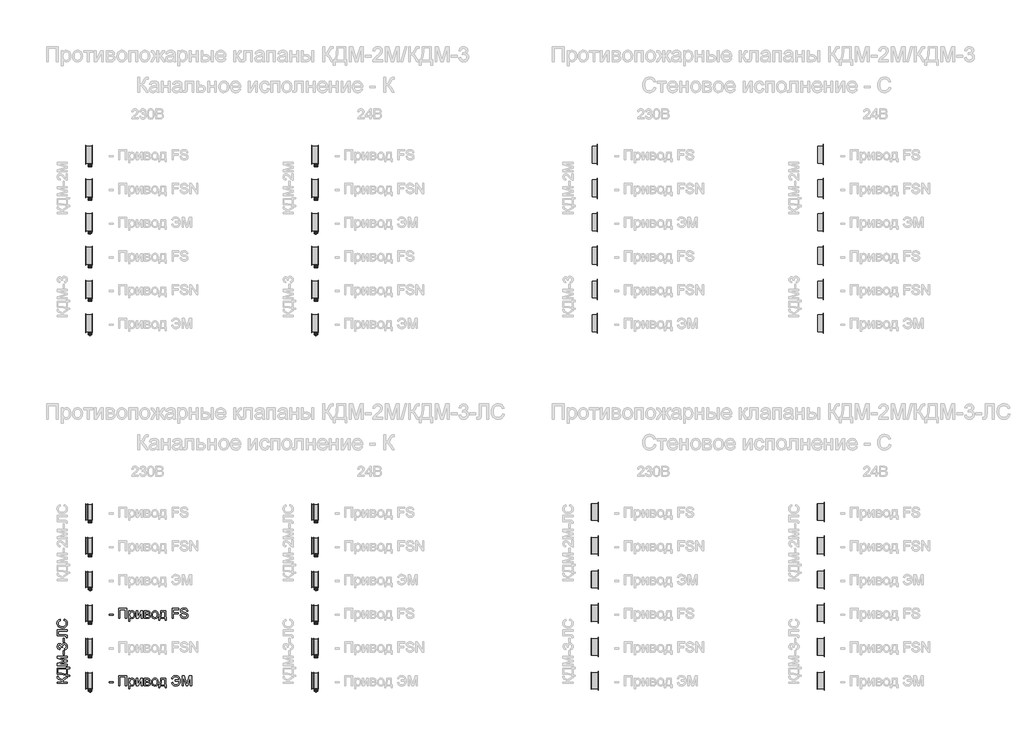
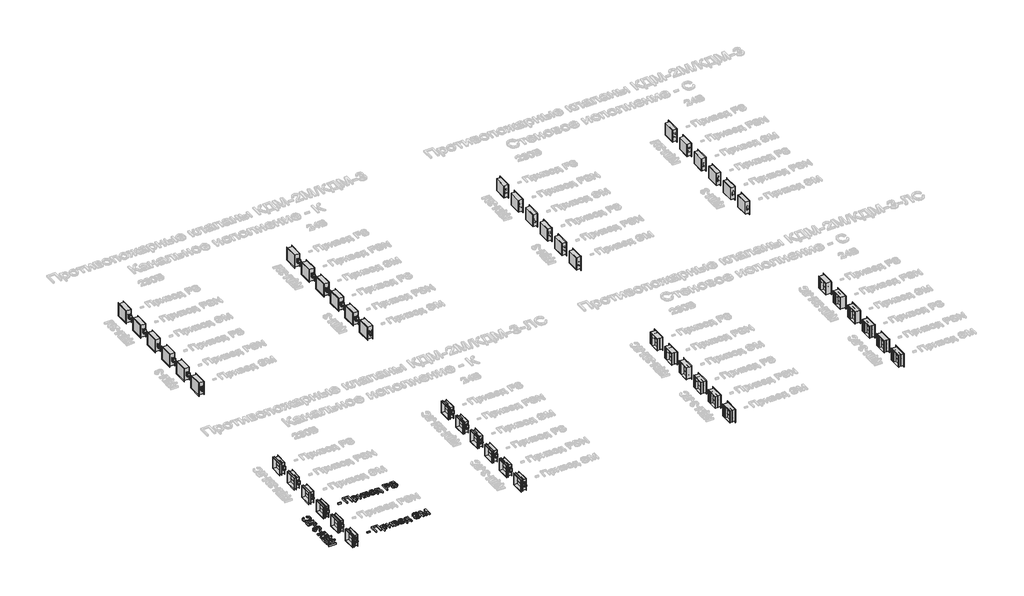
# One storey, part 1 of 23: 48 dampers, 3 proxies.
"""IFC4 building model written with IfcOpenShell, lengths in millimetres."""

from ifc_helpers import new_model, si_unit, origin, origin_with_axes, place, context, project, spatial, polyline, outline, extrude, transform, mapped, element, save
from components import damper_92731bf6, damper_259d30a5, damper_035a5197, damper_7b435ec8, damper_2479240d, damper_fe1c0cd6, damper_6541aed5, damper_64d2bc8e, damper_c32975f0, damper_f3751903, damper_c23bb0b5, damper_e07f9e79, damper_27d5a0eb, damper_a9b1c7ca, damper_ea2bbee0, damper_bef475e9

model = new_model("IFC4")

# Units and contexts
model_context = context("Model", 3, world=origin())
ifc_project = project(units=[si_unit("LENGTHUNIT", "METRE", prefix="MILLI")], contexts=[model_context])

# Site, building, storey
site = spatial("IfcSite", under=ifc_project)
building = spatial("IfcBuilding", under=site)
storey = spatial("IfcBuildingStorey", under=building, Name="Этаж 01", Elevation=0.0)

# Proxies
placement = place(None, origin())
element("IfcBuildingElementProxy", 1, Name="300 мм Arial", ObjectType="300 мм Arial", at=placement, inside=storey, context=model_context, shape_type="SweptSolid", body=[
    extrude(outline(polyline([(2804.7738082, -18034.3206311), (2804.7738082, -17996.6495148), (2922.4960467, -17996.6495148), (2922.4960467, -18034.3206311), (2804.7738082, -18034.3206311)])), origin_with_axes(), (0.0, 0.0, 1.0), 50.0),
    extrude(outline(polyline([(3087.3071805, -17822.4206019), (3322.7516574, -17822.4206019), (3322.7516574, -18123.7895324), (3285.0805411, -18123.7895324), (3285.0805411, -17860.0917182), (3124.9782968, -17860.0917182), (3124.9782968, -18123.7895324), (3087.3071805, -18123.7895324), (3087.3071805, -17822.4206019)])), origin_with_axes(), (0.0, 0.0, 1.0), 50.0),
    extrude(outline(polyline([(3383.9672214, -18208.5495441), (3383.9672214, -17902.4717241), (3421.6383378, -17902.4717241), (3421.6383378, -17939.4070764), (3433.9255964, -17921.1877206), (3447.684383, -17908.173895), (3463.724038, -17900.3655996), (3482.8539017, -17897.7628345), (3508.3297299, -17901.4048663), (3530.6049847, -17912.3309615), (3548.7415671, -17929.8789327), (3561.8013779, -17953.3865922), (3569.6924467, -17981.1432887), (3572.322803, -18011.438371), (3569.3521559, -18043.6556368), (3560.4402145, -18072.469994), (3545.8720875, -18096.4191119), (3525.9328834, -18114.0406595), (3502.7103324, -18124.8839813), (3478.292165, -18128.4984219), (3460.9741201, -18126.0795978), (3445.5138792, -18118.8231254), (3432.2793245, -18107.869439), (3421.6383378, -18094.3589728), (3421.6383378, -18208.5495441), (3383.9672214, -18208.5495441)]), holes=[polyline([(3421.6383378, -18014.8964618), (3425.7126308, -18048.668029), (3437.9355101, -18072.286053), (3455.970925, -18086.1919925), (3477.4828246, -18090.8273056), (3499.3442122, -18086.0264456), (3517.8394795, -18071.6238655), (3530.4486349, -18047.1413187), (3534.6516867, -18012.1005586), (3530.5498024, -17978.5129325), (3518.2441497, -17954.5638146), (3500.236326, -17940.2164168), (3479.027929, -17935.4339508), (3457.7367585, -17940.5199194), (3439.0391561, -17955.7778252), (3425.9885423, -17980.7294215), (3421.6383378, -18014.8964618)])]), origin_with_axes(), (0.0, 0.0, 1.0), 50.0),
    extrude(outline(polyline([(3614.7028088, -17902.4717241), (3652.3739251, -17902.4717241), (3652.3739251, -18071.2559835), (3744.9330351, -17902.4717241), (3793.6406113, -17902.4717241), (3793.6406113, -18123.7895324), (3755.969495, -18123.7895324), (3755.969495, -17956.0353426), (3663.9989962, -18123.7895324), (3614.7028088, -18123.7895324), (3614.7028088, -17902.4717241)])), origin_with_axes(), (0.0, 0.0, 1.0), 50.0),
    extrude(outline(polyline([(3850.1472857, -17902.4717241), (3933.1414638, -17902.4717241), (3959.8221055, -17903.7317199), (3978.6484666, -17907.5117074), (3992.4992238, -17914.6486181), (4004.2530535, -17925.9793836), (4012.2820781, -17940.7406486), (4014.9584196, -17958.1690581), (4013.3397388, -17972.2129533), (4008.4836965, -17984.325468), (4000.3718985, -17994.5617845), (3988.9859507, -18002.9770852), (4002.9286783, -18010.8037746), (4014.296232, -18023.3945359), (4021.856207, -18039.7560876), (4024.3761986, -18058.8951484), (4017.993446, -18087.6083381), (4002.8183137, -18107.8234538), (3978.7956194, -18119.7980127), (3945.8701809, -18123.7895324), (3850.1472857, -18123.7895324), (3850.1472857, -17902.4717241)]), holes=[polyline([(3887.818402, -18086.1184161), (3934.0243806, -18086.1184161), (3959.2059032, -18084.4169618), (3975.0064349, -18079.3125992), (3983.4861149, -18070.0327758), (3986.7050823, -18055.8049397), (3985.0955986, -18046.3779635), (3980.2671474, -18037.6683573), (3972.8543252, -18030.8533433), (3963.4917284, -18027.110144), (3930.3455607, -18024.9028521), (3887.818402, -18024.9028521), (3887.818402, -18086.1184161)]), polyline([(3887.818402, -17987.2317358), (3925.04806, -17987.2317358), (3955.7662065, -17985.3187494), (3970.7022156, -17977.6668039), (3975.6410313, -17971.3392336), (3977.2873033, -17963.8344409), (3974.3994296, -17952.5956459), (3965.7358086, -17945.3667647), (3950.0824297, -17941.4488215), (3926.2252823, -17940.1428404), (3887.818402, -17940.1428404), (3887.818402, -17987.2317358)])]), origin_with_axes(), (0.0, 0.0, 1.0), 50.0),
    extrude(outline(polyline([(4062.047315, -18013.1306282), (4064.0844615, -17984.4680223), (4070.1959011, -17959.7693448), (4080.3816339, -17939.0345959), (4094.6416597, -17922.2637754), (4108.9982546, -17911.5446138), (4124.8447715, -17903.8880698), (4142.1812106, -17899.2941433), (4161.0075717, -17897.7628345), (4181.7906051, -17899.6275364), (4200.5824773, -17905.221642), (4217.3831882, -17914.5451513), (4232.1927377, -17927.5980643), (4244.2799605, -17943.9389227), (4252.9136911, -17963.126268), (4258.0939294, -17985.1601003), (4259.8206756, -18010.0404195), (4256.767255, -18048.0978119), (4247.6069933, -18077.068519), (4232.606605, -18098.7643596), (4212.0328044, -18114.9971527), (4187.5962429, -18125.1231046), (4161.0075717, -18128.4984219), (4139.9210355, -18126.6406178), (4120.9544194, -18121.0672056), (4104.1077233, -18111.7781852), (4089.3809472, -18098.7735567), (4077.4224831, -18082.2740492), (4068.880723, -18062.500392), (4063.755667, -18039.452585), (4062.047315, -18013.1306282)]), holes=[polyline([(4099.7184313, -18013.0570518), (4104.0778329, -18047.1505157), (4117.1560378, -18071.4399245), (4136.8377246, -18085.9804603), (4161.0075717, -18090.8273056), (4185.0670541, -18085.9528692), (4204.7119527, -18071.3295599), (4217.7901576, -18046.7182544), (4222.1495593, -18011.8798294), (4217.7625665, -17978.7796469), (4204.6015881, -17954.821332), (4184.9290984, -17940.2807961), (4161.0075717, -17935.4339508), (4136.8377246, -17940.262402), (4117.1560378, -17954.7477556), (4104.0778329, -17978.981982), (4099.7184313, -18013.0570518)])]), origin_with_axes(), (0.0, 0.0, 1.0), 50.0),
    extrude(outline(polyline([(4335.1629082, -17902.4717241), (4476.4295943, -17902.4717241), (4476.4295943, -18086.1184161), (4504.6829316, -18086.1184161), (4504.6829316, -18185.0050964), (4467.0118152, -18185.0050964), (4467.0118152, -18123.7895324), (4311.6184605, -18123.7895324), (4311.6184605, -18185.0050964), (4273.9473442, -18185.0050964), (4273.9473442, -18086.1184161), (4297.4917919, -18086.1184161), (4314.6075017, -18055.1887373), (4326.5912577, -18014.2710624), (4333.4430598, -17963.3653913), (4335.1629082, -17902.4717241)]), holes=[polyline([(4368.1251349, -17940.1428404), (4365.0349262, -17986.2660455), (4359.2959671, -18025.9697099), (4350.9082576, -18059.2538334), (4339.8717977, -18086.1184161), (4438.758478, -18086.1184161), (4438.758478, -17940.1428404), (4368.1251349, -17940.1428404)])]), origin_with_axes(), (0.0, 0.0, 1.0), 50.0),
    extrude(outline(polyline([(4669.4940654, -18123.7895324), (4669.4940654, -17822.4206019), (4871.9763155, -17822.4206019), (4871.9763155, -17860.0917182), (4707.1651817, -17860.0917182), (4707.1651817, -17949.5606195), (4848.4318678, -17949.5606195), (4848.4318678, -17987.2317358), (4707.1651817, -17987.2317358), (4707.1651817, -18123.7895324), (4669.4940654, -18123.7895324)])), origin_with_axes(), (0.0, 0.0, 1.0), 50.0),
    extrude(outline(polyline([(4909.6474318, -18020.1939625), (4947.3185481, -18020.1939625), (4951.6411616, -18041.0988569), (4959.458654, -18057.901867), (4971.6539421, -18071.2375894), (4989.1099428, -18081.7406203), (5010.4470985, -18088.5556343), (5034.2858518, -18090.8273056), (5055.2735196, -18089.1074573), (5073.6492253, -18083.9479123), (5088.539249, -18075.780932), (5099.0698712, -18065.0387777), (5105.3330621, -18052.7055339), (5107.4207924, -18039.7652847), (5105.857294, -18027.1561293), (5101.1667985, -18016.2576252), (5091.6386549, -18006.9594078), (5075.5622117, -17999.1511124), (5020.7110062, -17984.7669264), (4984.7045559, -17975.2479798), (4961.665946, -17966.1888856), (4942.9131613, -17953.5153509), (4929.6234242, -17938.1562776), (4921.7047642, -17920.4427595), (4919.0652109, -17900.7058905), (4922.3301636, -17878.6421678), (4932.1250217, -17858.0683673), (4948.1922679, -17840.6307607), (4970.2743846, -17827.97562), (4996.7802824, -17820.2776893), (5026.1188715, -17817.7117124), (5057.9038759, -17820.3972509), (5085.7157547, -17828.4538666), (5108.5612266, -17841.7160126), (5125.4470102, -17860.0181418), (5136.1339822, -17882.2198202), (5140.3830192, -17907.1806136), (5102.7119029, -17907.1806136), (5095.7957214, -17884.7030237), (5081.3747472, -17868.4794277), (5058.841975, -17858.6569784), (5027.5903995, -17855.3828287), (4995.60306, -17858.6201902), (4973.658899, -17868.3322749), (4960.9669702, -17882.6244904), (4956.7363272, -17899.6022445), (4959.7345655, -17914.078401), (4968.7292803, -17925.7218662), (4989.9928596, -17936.1329266), (5030.2391499, -17946.7647163), (5071.7730271, -17956.8630771), (5096.8993674, -17965.6738508), (5118.3744789, -17979.340667), (5133.3564731, -17996.2080564), (5142.1580498, -18016.0920783), (5145.0919088, -18038.8087915), (5141.7165914, -18062.0313424), (5131.5906395, -18083.8743359), (5115.1279202, -18102.6731058), (5092.7423008, -18116.7629863), (5065.8225358, -18125.564563), (5035.7573798, -18128.4984219), (4998.8496186, -18125.3346367), (4968.4717629, -18115.8432813), (4944.2743246, -18099.9875673), (4925.907816, -18077.7307066), (4914.1171981, -18050.6178035), (4909.6474318, -18020.1939625)])), origin_with_axes(), (0.0, 0.0, 1.0), 50.0),
])
element("IfcBuildingElementProxy", 2, Name="300 мм Arial", ObjectType="300 мм Arial", at=placement, inside=storey, context=model_context, shape_type="SweptSolid", body=[
    extrude(outline(polyline([(2804.7738082, -20034.3206311), (2804.7738082, -19996.6495148), (2922.4960467, -19996.6495148), (2922.4960467, -20034.3206311), (2804.7738082, -20034.3206311)])), origin_with_axes(), (0.0, 0.0, 1.0), 50.0),
    extrude(outline(polyline([(3087.3071805, -19822.4206019), (3322.7516574, -19822.4206019), (3322.7516574, -20123.7895324), (3285.0805411, -20123.7895324), (3285.0805411, -19860.0917182), (3124.9782968, -19860.0917182), (3124.9782968, -20123.7895324), (3087.3071805, -20123.7895324), (3087.3071805, -19822.4206019)])), origin_with_axes(), (0.0, 0.0, 1.0), 50.0),
    extrude(outline(polyline([(3383.9672214, -20208.5495441), (3383.9672214, -19902.4717241), (3421.6383378, -19902.4717241), (3421.6383378, -19939.4070764), (3433.9255964, -19921.1877206), (3447.684383, -19908.173895), (3463.724038, -19900.3655996), (3482.8539017, -19897.7628345), (3508.3297299, -19901.4048663), (3530.6049847, -19912.3309615), (3548.7415671, -19929.8789327), (3561.8013779, -19953.3865922), (3569.6924467, -19981.1432887), (3572.322803, -20011.438371), (3569.3521559, -20043.6556368), (3560.4402145, -20072.469994), (3545.8720875, -20096.4191119), (3525.9328834, -20114.0406595), (3502.7103324, -20124.8839813), (3478.292165, -20128.4984219), (3460.9741201, -20126.0795978), (3445.5138792, -20118.8231254), (3432.2793245, -20107.869439), (3421.6383378, -20094.3589728), (3421.6383378, -20208.5495441), (3383.9672214, -20208.5495441)]), holes=[polyline([(3421.6383378, -20014.8964618), (3425.7126308, -20048.668029), (3437.9355101, -20072.286053), (3455.970925, -20086.1919925), (3477.4828246, -20090.8273056), (3499.3442122, -20086.0264456), (3517.8394795, -20071.6238655), (3530.4486349, -20047.1413187), (3534.6516867, -20012.1005586), (3530.5498024, -19978.5129325), (3518.2441497, -19954.5638146), (3500.236326, -19940.2164168), (3479.027929, -19935.4339508), (3457.7367585, -19940.5199194), (3439.0391561, -19955.7778252), (3425.9885423, -19980.7294215), (3421.6383378, -20014.8964618)])]), origin_with_axes(), (0.0, 0.0, 1.0), 50.0),
    extrude(outline(polyline([(3614.7028088, -19902.4717241), (3652.3739251, -19902.4717241), (3652.3739251, -20071.2559835), (3744.9330351, -19902.4717241), (3793.6406113, -19902.4717241), (3793.6406113, -20123.7895324), (3755.969495, -20123.7895324), (3755.969495, -19956.0353426), (3663.9989962, -20123.7895324), (3614.7028088, -20123.7895324), (3614.7028088, -19902.4717241)])), origin_with_axes(), (0.0, 0.0, 1.0), 50.0),
    extrude(outline(polyline([(3850.1472857, -19902.4717241), (3933.1414638, -19902.4717241), (3959.8221055, -19903.7317199), (3978.6484666, -19907.5117074), (3992.4992238, -19914.6486181), (4004.2530535, -19925.9793836), (4012.2820781, -19940.7406486), (4014.9584196, -19958.1690581), (4013.3397388, -19972.2129533), (4008.4836965, -19984.325468), (4000.3718985, -19994.5617845), (3988.9859507, -20002.9770852), (4002.9286783, -20010.8037746), (4014.296232, -20023.3945359), (4021.856207, -20039.7560876), (4024.3761986, -20058.8951484), (4017.993446, -20087.6083381), (4002.8183137, -20107.8234538), (3978.7956194, -20119.7980127), (3945.8701809, -20123.7895324), (3850.1472857, -20123.7895324), (3850.1472857, -19902.4717241)]), holes=[polyline([(3887.818402, -20086.1184161), (3934.0243806, -20086.1184161), (3959.2059032, -20084.4169618), (3975.0064349, -20079.3125992), (3983.4861149, -20070.0327758), (3986.7050823, -20055.8049397), (3985.0955986, -20046.3779635), (3980.2671474, -20037.6683573), (3972.8543252, -20030.8533433), (3963.4917284, -20027.110144), (3930.3455607, -20024.9028521), (3887.818402, -20024.9028521), (3887.818402, -20086.1184161)]), polyline([(3887.818402, -19987.2317358), (3925.04806, -19987.2317358), (3955.7662065, -19985.3187494), (3970.7022156, -19977.6668039), (3975.6410313, -19971.3392336), (3977.2873033, -19963.8344409), (3974.3994296, -19952.5956459), (3965.7358086, -19945.3667647), (3950.0824297, -19941.4488215), (3926.2252823, -19940.1428404), (3887.818402, -19940.1428404), (3887.818402, -19987.2317358)])]), origin_with_axes(), (0.0, 0.0, 1.0), 50.0),
    extrude(outline(polyline([(4062.047315, -20013.1306282), (4064.0844615, -19984.4680223), (4070.1959011, -19959.7693448), (4080.3816339, -19939.0345959), (4094.6416597, -19922.2637754), (4108.9982546, -19911.5446138), (4124.8447715, -19903.8880698), (4142.1812106, -19899.2941433), (4161.0075717, -19897.7628345), (4181.7906051, -19899.6275364), (4200.5824773, -19905.221642), (4217.3831882, -19914.5451513), (4232.1927377, -19927.5980643), (4244.2799605, -19943.9389227), (4252.9136911, -19963.126268), (4258.0939294, -19985.1601003), (4259.8206756, -20010.0404195), (4256.767255, -20048.0978119), (4247.6069933, -20077.068519), (4232.606605, -20098.7643596), (4212.0328044, -20114.9971527), (4187.5962429, -20125.1231046), (4161.0075717, -20128.4984219), (4139.9210355, -20126.6406178), (4120.9544194, -20121.0672056), (4104.1077233, -20111.7781852), (4089.3809472, -20098.7735567), (4077.4224831, -20082.2740492), (4068.880723, -20062.500392), (4063.755667, -20039.452585), (4062.047315, -20013.1306282)]), holes=[polyline([(4099.7184313, -20013.0570518), (4104.0778329, -20047.1505157), (4117.1560378, -20071.4399245), (4136.8377246, -20085.9804603), (4161.0075717, -20090.8273056), (4185.0670541, -20085.9528692), (4204.7119527, -20071.3295599), (4217.7901576, -20046.7182544), (4222.1495593, -20011.8798294), (4217.7625665, -19978.7796469), (4204.6015881, -19954.821332), (4184.9290984, -19940.2807961), (4161.0075717, -19935.4339508), (4136.8377246, -19940.262402), (4117.1560378, -19954.7477556), (4104.0778329, -19978.981982), (4099.7184313, -20013.0570518)])]), origin_with_axes(), (0.0, 0.0, 1.0), 50.0),
    extrude(outline(polyline([(4335.1629082, -19902.4717241), (4476.4295943, -19902.4717241), (4476.4295943, -20086.1184161), (4504.6829316, -20086.1184161), (4504.6829316, -20185.0050964), (4467.0118152, -20185.0050964), (4467.0118152, -20123.7895324), (4311.6184605, -20123.7895324), (4311.6184605, -20185.0050964), (4273.9473442, -20185.0050964), (4273.9473442, -20086.1184161), (4297.4917919, -20086.1184161), (4314.6075017, -20055.1887373), (4326.5912577, -20014.2710624), (4333.4430598, -19963.3653913), (4335.1629082, -19902.4717241)]), holes=[polyline([(4368.1251349, -19940.1428404), (4365.0349262, -19986.2660455), (4359.2959671, -20025.9697099), (4350.9082576, -20059.2538334), (4339.8717977, -20086.1184161), (4438.758478, -20086.1184161), (4438.758478, -19940.1428404), (4368.1251349, -19940.1428404)])]), origin_with_axes(), (0.0, 0.0, 1.0), 50.0),
    extrude(outline(polyline([(4768.3807457, -19949.5606195), (4881.3940946, -19949.5606195), (4878.6947605, -19929.0121108), (4873.0983556, -19910.7030837), (4864.6048801, -19894.6335383), (4853.2143338, -19880.8034746), (4839.1520445, -19869.681942), (4822.64334, -19861.7379902), (4803.6882202, -19856.9716191), (4782.2866851, -19855.3828287), (4751.8674426, -19859.2088014), (4727.6378147, -19870.6867197), (4709.5978014, -19889.8165834), (4697.7474026, -19916.5983927), (4660.0762863, -19907.1806136), (4666.8637091, -19887.2873947), (4676.1895177, -19869.6934383), (4688.053712, -19854.3987444), (4702.4562922, -19841.4033129), (4719.0799598, -19831.0382377), (4737.6074168, -19823.6346125), (4758.0386631, -19819.1924374), (4780.3736987, -19817.7117124), (4821.4477235, -19823.1471689), (4856.3781189, -19839.4535383), (4884.1256184, -19864.2119966), (4903.6509553, -19895.0037196), (4915.211647, -19930.6054997), (4919.0652109, -19969.7941292), (4917.8925871, -20002.0136942), (4912.0938471, -20031.5707132), (4901.6689911, -20058.4651863), (4886.6180189, -20082.6971135), (4866.9777189, -20102.7351859), (4842.7848792, -20117.0480948), (4814.0394998, -20125.6358401), (4780.7415807, -20128.4984219), (4757.0545788, -20126.9533175), (4735.6576422, -20122.3180044), (4716.5507711, -20114.5924825), (4699.7339654, -20103.7767518), (4685.2072251, -20089.8708124), (4672.9705502, -20072.8746642), (4663.0239408, -20052.7883073), (4655.3673968, -20029.6117416), (4693.0385131, -20020.1939625), (4705.7672301, -20051.0960501), (4725.3385523, -20073.1689698), (4751.7524795, -20086.4127217), (4785.0090119, -20090.8273056), (4804.7182898, -20089.0936617), (4822.5697636, -20083.89273), (4838.5634333, -20075.2245105), (4852.699299, -20063.0890032), (4864.3979464, -20047.9460605), (4873.0799615, -20030.2555351), (4878.7453442, -20010.0174268), (4881.3940946, -19987.2317358), (4768.3807457, -19987.2317358), (4768.3807457, -19949.5606195)])), origin_with_axes(), (0.0, 0.0, 1.0), 50.0),
    extrude(outline(polyline([(4970.8629958, -20123.7895324), (4970.8629958, -19822.4206019), (5035.6838034, -19822.4206019), (5097.3408258, -20034.8356659), (5109.7752372, -20079.2022346), (5123.2397182, -20031.156846), (5183.866671, -19822.4206019), (5248.6874786, -19822.4206019), (5248.6874786, -20123.7895324), (5211.0163623, -20123.7895324), (5211.0163623, -19860.0917182), (5135.3062477, -20123.7895324), (5084.2442268, -20123.7895324), (5008.5341121, -19860.0917182), (5008.5341121, -20123.7895324), (4970.8629958, -20123.7895324)])), origin_with_axes(), (0.0, 0.0, 1.0), 50.0),
])
element("IfcBuildingElementProxy", 3, Name="300 мм Arial", ObjectType="300 мм Arial", at=placement, inside=storey, context=model_context, shape_type="SweptSolid", body=[
    extrude(outline(polyline([(1262.355345, -20052.3550656), (1262.355345, -20014.6839493), (1394.2042521, -20014.6839493), (1391.7118516, -19989.1805299), (1384.23465, -19972.5614608), (1366.6406936, -19959.1245709), (1333.7980285, -19943.1676894), (1291.6755401, -19922.3823567), (1280.2620012, -19912.3575723), (1270.8166309, -19898.837909), (1264.4706665, -19882.7890569), (1262.355345, -19865.1767064), (1262.7968034, -19840.4550363), (1300.4679197, -19840.4550363), (1300.2471905, -19848.7691694), (1300.0264613, -19857.0833025), (1302.2889356, -19874.3369681), (1309.0763584, -19886.5138621), (1323.3317857, -19896.998499), (1347.8511207, -19908.8810874), (1378.3853263, -19923.4584115), (1395.0871689, -19935.5525321), (1410.6853655, -19961.5617892), (1416.8933742, -19946.9706695), (1427.7183019, -19932.4807174), (1463.2189144, -19903.8043159), (1563.7242755, -19840.4550363), (1563.7242755, -19884.1594174), (1478.817111, -19937.7230359), (1451.5846463, -19958.407201), (1434.4873306, -19975.4309404), (1425.4650246, -19992.8409558), (1422.4575893, -20014.6839493), (1563.7242755, -20014.6839493), (1563.7242755, -20052.3550656), (1262.355345, -20052.3550656)])), origin_with_axes(), (0.0, 0.0, 1.0), 50.0),
    extrude(outline(polyline([(1262.355345, -19779.2394723), (1262.355345, -19600.3016699), (1526.0531592, -19600.3016699), (1526.0531592, -19572.0483327), (1634.3576186, -19572.0483327), (1634.3576186, -19609.719449), (1563.7242755, -19609.719449), (1563.7242755, -19802.78392), (1634.3576186, -19802.78392), (1634.3576186, -19840.4550363), (1563.7242755, -19840.4550363), (1526.0531592, -19840.4550363), (1526.0531592, -19816.9105887), (1491.8815204, -19800.4294753), (1443.8131392, -19788.6572514), (1381.8480156, -19781.5939171), (1305.9861497, -19779.2394723), (1262.355345, -19779.2394723)]), holes=[polyline([(1300.0264613, -19637.9727862), (1300.0264613, -19741.568356), (1315.1831995, -19741.568356), (1418.4108874, -19749.2203015), (1478.0629529, -19760.551067), (1526.0531592, -19779.2394723), (1526.0531592, -19637.9727862), (1300.0264613, -19637.9727862)])]), origin_with_axes(), (0.0, 0.0, 1.0), 50.0),
    extrude(outline(polyline([(1563.7242755, -19524.9594373), (1262.355345, -19524.9594373), (1262.355345, -19460.1386297), (1474.7704091, -19398.4816073), (1519.1369777, -19386.0471959), (1471.0915891, -19372.5827149), (1262.355345, -19311.9557621), (1262.355345, -19247.1349545), (1563.7242755, -19247.1349545), (1563.7242755, -19284.8060708), (1300.0264613, -19284.8060708), (1563.7242755, -19360.5161854), (1563.7242755, -19411.5782064), (1300.0264613, -19487.288321), (1563.7242755, -19487.288321), (1563.7242755, -19524.9594373)])), origin_with_axes(), (0.0, 0.0, 1.0), 50.0),
    extrude(outline(polyline([(1474.2553743, -19204.7549487), (1436.584258, -19204.7549487), (1436.584258, -19087.0327102), (1474.2553743, -19087.0327102), (1474.2553743, -19204.7549487)])), origin_with_axes(), (0.0, 0.0, 1.0), 50.0),
    extrude(outline(polyline([(1483.6731533, -19054.0704835), (1478.9642638, -19016.3993671), (1502.6374702, -19007.9656724), (1518.6219429, -18995.6140344), (1527.7270223, -18978.7374479), (1530.7620487, -18956.7289075), (1526.5865881, -18930.9035915), (1514.0602061, -18910.9643873), (1495.3718008, -18898.2172762), (1472.7102699, -18893.9682392), (1451.1983702, -18898.180488), (1433.7515666, -18910.8172345), (1422.1908749, -18929.9470983), (1418.337311, -18953.6386988), (1422.4575893, -18980.052626), (1384.786473, -18975.8587713), (1385.2279314, -18969.8255066), (1382.5239988, -18947.2559462), (1374.4122008, -18927.0776187), (1360.6902023, -18912.8405855), (1341.1556684, -18908.0949078), (1324.8860872, -18911.5346044), (1311.6883206, -18921.8536944), (1302.9419262, -18937.5990438), (1300.0264613, -18957.3175187), (1302.9695173, -18977.0727819), (1311.7986852, -18993.2228015), (1326.513965, -19005.0134194), (1347.1153567, -19011.6904776), (1342.4064672, -19049.3615939), (1308.5797177, -19038.2699518), (1283.3246188, -19018.5330827), (1267.5976635, -18991.5305443), (1262.355345, -18958.6418939), (1264.9397161, -18934.9594905), (1272.6928291, -18913.2084675), (1284.9249054, -18894.86955), (1300.9461663, -18881.4234631), (1319.4046454, -18873.1737094), (1338.9483764, -18870.4237915), (1357.1585352, -18873.0357536), (1373.6764368, -18880.8716401), (1387.7479231, -18893.8210864), (1398.6188361, -18911.7737277), (1408.1469797, -18888.1924918), (1424.3705757, -18870.7180971), (1446.4067072, -18859.9023664), (1473.3724575, -18856.2971228), (1492.4839271, -18858.0997446), (1510.0870806, -18863.50761), (1526.1819179, -18872.5207188), (1540.768439, -18885.1390713), (1552.8717566, -18900.5119401), (1561.5169835, -18917.7885983), (1566.7041196, -18936.9690459), (1568.433165, -18958.0532827), (1566.9570385, -18977.1095701), (1562.528659, -18994.4736002), (1555.1480265, -19010.1453732), (1544.8151409, -19024.124889), (1532.1370077, -19035.8465291), (1517.720632, -19044.7446749), (1501.5660139, -19050.8193263), (1483.6731533, -19054.0704835)])), origin_with_axes(), (0.0, 0.0, 1.0), 50.0),
    extrude(outline(polyline([(1474.2553743, -18832.7526752), (1436.584258, -18832.7526752), (1436.584258, -18715.0304367), (1474.2553743, -18715.0304367), (1474.2553743, -18832.7526752)])), origin_with_axes(), (0.0, 0.0, 1.0), 50.0),
    extrude(outline(polyline([(1262.355345, -18644.3970936), (1262.355345, -18460.7504016), (1563.7242755, -18460.7504016), (1563.7242755, -18498.4215179), (1300.0264613, -18498.4215179), (1300.0264613, -18606.7259773), (1453.8011353, -18606.7259773), (1522.4111274, -18611.1037731), (1541.7985086, -18617.8819988), (1556.3298474, -18629.4610846), (1565.4073356, -18645.3167986), (1568.433165, -18664.924909), (1563.7242755, -18696.1948785), (1526.0531592, -18691.485989), (1530.7620487, -18673.4597712), (1528.23286, -18660.7218572), (1520.6452939, -18651.6443689), (1503.6767368, -18646.2089125), (1473.0045755, -18644.3970936), (1262.355345, -18644.3970936)])), origin_with_axes(), (0.0, 0.0, 1.0), 50.0),
    extrude(outline(polyline([(1456.5970385, -18182.9259189), (1466.3091232, -18145.2548026), (1489.7363085, -18152.7090115), (1510.2066422, -18162.6372268), (1527.7201245, -18175.0394486), (1542.2767552, -18189.9156768), (1553.7201845, -18206.9302191), (1561.8940626, -18225.7473831), (1566.7983894, -18246.3671689), (1568.433165, -18268.7895765), (1563.4851522, -18312.4847605), (1548.6411137, -18347.1852297), (1524.4160843, -18373.783098), (1491.3250988, -18393.1704791), (1452.4215778, -18405.0070823), (1410.7589419, -18408.9526167), (1366.8154376, -18404.4920475), (1328.8684098, -18391.1103399), (1298.122672, -18369.5064698), (1275.7830379, -18340.3794128), (1262.1806011, -18305.8352935), (1257.6464555, -18267.9802362), (1263.5141733, -18226.6762852), (1270.8488206, -18208.7075489), (1281.1173268, -18192.5276389), (1294.0483789, -18178.4032696), (1309.370664, -18166.6011553), (1347.1889331, -18149.9636921), (1356.1652538, -18187.6348084), (1328.6936658, -18200.6946192), (1309.8489106, -18218.536896), (1298.9504065, -18241.3823679), (1295.3175718, -18269.4517641), (1299.3458797, -18301.8069856), (1311.4308032, -18328.3864598), (1330.3031495, -18348.5555902), (1354.6937258, -18361.6797803), (1382.2664814, -18368.8810704), (1410.6853655, -18371.2815004), (1445.4870022, -18368.439612), (1475.5797494, -18359.9139468), (1499.8139759, -18345.3826079), (1517.0400503, -18324.5236988), (1527.3315491, -18299.5169202), (1530.7620487, -18272.5419729), (1526.0899474, -18241.0972594), (1512.0736434, -18214.8948643), (1488.8602895, -18195.11201), (1456.5970385, -18182.9259189)])), origin_with_axes(), (0.0, 0.0, 1.0), 50.0),
])

# Dampers
damper_shape = damper_92731bf6(model_context)
element("IfcDamper", 4, ObjectType="СВ_КлапанПротивопожарныйЛифтовой_КДМ-2М-3-ЛС_НЗ_СтеновойПрямоугольный_СВОК : КДМ-2М_Привод FS", at=placement, inside=storey, context=model_context, shape_type="MappedRepresentation", body=[
    mapped(damper_shape, transform((23906.9689915, -14969.0107898, 0.0), x_axis=(-1.0, 0.0, 0.0), y_axis=(0.0, -1.0, 0.0), z_axis=(0.0, 0.0, 1.0))),
])
element("IfcDamper", 5, ObjectType="СВ_КлапанПротивопожарныйЛифтовой_КДМ-2М-3-ЛС_НЗ_СтеновойПрямоугольный_СВОК : КДМ-2М_Привод FSN", at=placement, inside=storey, context=model_context, shape_type="MappedRepresentation", body=[
    mapped(damper_shape, transform((23906.9689915, -15969.0107898, 0.0), x_axis=(-1.0, 0.0, 0.0), y_axis=(0.0, -1.0, 0.0), z_axis=(0.0, 0.0, 1.0))),
])
damper_2_shape = damper_259d30a5(model_context)
element("IfcDamper", 6, ObjectType="СВ_КлапанПротивопожарныйЛифтовой_КДМ-2М-3-ЛС_НЗ_СтеновойПрямоугольный_СВОК : КДМ-2М_Привод ЭМ", at=placement, inside=storey, context=model_context, shape_type="MappedRepresentation", body=[
    mapped(damper_2_shape, transform((23906.9689915, -16969.0107898, 0.0), x_axis=(-1.0, 0.0, 0.0), y_axis=(0.0, -1.0, 0.0), z_axis=(0.0, 0.0, 1.0))),
])
damper_3_shape = damper_035a5197(model_context)
element("IfcDamper", 7, ObjectType="СВ_КлапанПротивопожарныйЛифтовой_КДМ-2М-3-ЛС_НЗ_СтеновойПрямоугольный_СВОК : КДМ-3_Привод FS", at=placement, inside=storey, context=model_context, shape_type="MappedRepresentation", body=[
    mapped(damper_3_shape, transform((23906.9689915, -17969.0107898, 0.0), x_axis=(-1.0, 0.0, 0.0), y_axis=(0.0, -1.0, 0.0), z_axis=(0.0, 0.0, 1.0))),
])
element("IfcDamper", 8, ObjectType="СВ_КлапанПротивопожарныйЛифтовой_КДМ-2М-3-ЛС_НЗ_СтеновойПрямоугольный_СВОК : КДМ-3_Привод FSN", at=placement, inside=storey, context=model_context, shape_type="MappedRepresentation", body=[
    mapped(damper_3_shape, transform((23906.9689915, -18969.0107898, 0.0), x_axis=(-1.0, 0.0, 0.0), y_axis=(0.0, -1.0, 0.0), z_axis=(0.0, 0.0, 1.0))),
])
damper_4_shape = damper_7b435ec8(model_context)
element("IfcDamper", 9, ObjectType="СВ_КлапанПротивопожарныйЛифтовой_КДМ-2М-3-ЛС_НЗ_СтеновойПрямоугольный_СВОК : КДМ-3_Привод ЭМ", at=placement, inside=storey, context=model_context, shape_type="MappedRepresentation", body=[
    mapped(damper_4_shape, transform((23906.9689915, -19969.0107898, 0.0), x_axis=(-1.0, 0.0, 0.0), y_axis=(0.0, -1.0, 0.0), z_axis=(0.0, 0.0, 1.0))),
])
damper_5_shape = damper_2479240d(model_context)
element("IfcDamper", 10, ObjectType="СВ_КлапанПротивопожарныйЛифтовой_КДМ-2М-3-ЛС_НЗ_КанальныйПрямоугольный_СВОК : КДМ-2М_Привод FS", at=placement, inside=storey, context=model_context, shape_type="MappedRepresentation", body=[
    mapped(damper_5_shape, transform((2206.9689915, -14969.0107898, 0.0), x_axis=(1.0, 0.0, 0.0), y_axis=(0.0, 1.0, 0.0), z_axis=(0.0, 0.0, 1.0))),
])
element("IfcDamper", 11, ObjectType="СВ_КлапанПротивопожарныйЛифтовой_КДМ-2М-3-ЛС_НЗ_КанальныйПрямоугольный_СВОК : КДМ-2М_Привод FSN", at=placement, inside=storey, context=model_context, shape_type="MappedRepresentation", body=[
    mapped(damper_5_shape, transform((2206.9689915, -15969.0107898, 0.0), x_axis=(1.0, 0.0, 0.0), y_axis=(0.0, 1.0, 0.0), z_axis=(0.0, 0.0, 1.0))),
])
damper_6_shape = damper_fe1c0cd6(model_context)
element("IfcDamper", 12, ObjectType="СВ_КлапанПротивопожарныйЛифтовой_КДМ-2М-3-ЛС_НЗ_КанальныйПрямоугольный_СВОК : КДМ-2М_Привод ЭМ", at=placement, inside=storey, context=model_context, shape_type="MappedRepresentation", body=[
    mapped(damper_6_shape, transform((2206.9689915, -16969.0107898, 0.0), x_axis=(1.0, 0.0, 0.0), y_axis=(0.0, 1.0, 0.0), z_axis=(0.0, 0.0, 1.0))),
])
damper_7_shape = damper_6541aed5(model_context)
element("IfcDamper", 13, ObjectType="СВ_КлапанПротивопожарныйЛифтовой_КДМ-2М-3-ЛС_НЗ_КанальныйПрямоугольный_СВОК : КДМ-3_Привод FS", at=placement, inside=storey, context=model_context, shape_type="MappedRepresentation", body=[
    mapped(damper_7_shape, transform((2206.9689915, -17969.0107898, 0.0), x_axis=(1.0, 0.0, 0.0), y_axis=(0.0, 1.0, 0.0), z_axis=(0.0, 0.0, 1.0))),
])
element("IfcDamper", 14, ObjectType="СВ_КлапанПротивопожарныйЛифтовой_КДМ-2М-3-ЛС_НЗ_КанальныйПрямоугольный_СВОК : КДМ-3_Привод FSN", at=placement, inside=storey, context=model_context, shape_type="MappedRepresentation", body=[
    mapped(damper_7_shape, transform((2206.9689915, -18969.0107898, 0.0), x_axis=(1.0, 0.0, 0.0), y_axis=(0.0, 1.0, 0.0), z_axis=(0.0, 0.0, 1.0))),
])
damper_8_shape = damper_64d2bc8e(model_context)
element("IfcDamper", 15, ObjectType="СВ_КлапанПротивопожарныйЛифтовой_КДМ-2М-3-ЛС_НЗ_КанальныйПрямоугольный_СВОК : КДМ-3_Привод ЭМ", at=placement, inside=storey, context=model_context, shape_type="MappedRepresentation", body=[
    mapped(damper_8_shape, transform((2206.9689915, -19969.0107898, 0.0), x_axis=(1.0, 0.0, 0.0), y_axis=(0.0, 1.0, 0.0), z_axis=(0.0, 0.0, 1.0))),
])
element("IfcDamper", 16, ObjectType="СВ_КлапанПротивопожарныйЛифтовой_КДМ-2М-3-ЛС_НЗ_КанальныйПрямоугольный_СВОК : КДМ-2М_Привод FS", at=placement, inside=storey, context=model_context, shape_type="MappedRepresentation", body=[
    mapped(damper_5_shape, transform((8906.9689915, -14969.0107898, 0.0), x_axis=(1.0, 0.0, 0.0), y_axis=(0.0, 1.0, 0.0), z_axis=(0.0, 0.0, 1.0))),
])
element("IfcDamper", 17, ObjectType="СВ_КлапанПротивопожарныйЛифтовой_КДМ-2М-3-ЛС_НЗ_КанальныйПрямоугольный_СВОК : КДМ-2М_Привод FSN", at=placement, inside=storey, context=model_context, shape_type="MappedRepresentation", body=[
    mapped(damper_5_shape, transform((8906.9689915, -15969.0107898, 0.0), x_axis=(1.0, 0.0, 0.0), y_axis=(0.0, 1.0, 0.0), z_axis=(0.0, 0.0, 1.0))),
])
element("IfcDamper", 18, ObjectType="СВ_КлапанПротивопожарныйЛифтовой_КДМ-2М-3-ЛС_НЗ_КанальныйПрямоугольный_СВОК : КДМ-2М_Привод ЭМ", at=placement, inside=storey, context=model_context, shape_type="MappedRepresentation", body=[
    mapped(damper_6_shape, transform((8906.9689915, -16969.0107898, 0.0), x_axis=(1.0, 0.0, 0.0), y_axis=(0.0, 1.0, 0.0), z_axis=(0.0, 0.0, 1.0))),
])
element("IfcDamper", 19, ObjectType="СВ_КлапанПротивопожарныйЛифтовой_КДМ-2М-3-ЛС_НЗ_КанальныйПрямоугольный_СВОК : КДМ-3_Привод FS", at=placement, inside=storey, context=model_context, shape_type="MappedRepresentation", body=[
    mapped(damper_7_shape, transform((8906.9689915, -17969.0107898, 0.0), x_axis=(1.0, 0.0, 0.0), y_axis=(0.0, 1.0, 0.0), z_axis=(0.0, 0.0, 1.0))),
])
element("IfcDamper", 20, ObjectType="СВ_КлапанПротивопожарныйЛифтовой_КДМ-2М-3-ЛС_НЗ_КанальныйПрямоугольный_СВОК : КДМ-3_Привод FSN", at=placement, inside=storey, context=model_context, shape_type="MappedRepresentation", body=[
    mapped(damper_7_shape, transform((8906.9689915, -18969.0107898, 0.0), x_axis=(1.0, 0.0, 0.0), y_axis=(0.0, 1.0, 0.0), z_axis=(0.0, 0.0, 1.0))),
])
element("IfcDamper", 21, ObjectType="СВ_КлапанПротивопожарныйЛифтовой_КДМ-2М-3-ЛС_НЗ_КанальныйПрямоугольный_СВОК : КДМ-3_Привод ЭМ", at=placement, inside=storey, context=model_context, shape_type="MappedRepresentation", body=[
    mapped(damper_8_shape, transform((8906.9689915, -19969.0107898, 0.0), x_axis=(1.0, 0.0, 0.0), y_axis=(0.0, 1.0, 0.0), z_axis=(0.0, 0.0, 1.0))),
])
damper_9_shape = damper_c32975f0(model_context)
element("IfcDamper", 22, ObjectType="СВ_КлапанПротивопожарный_КДМ-2М-3_НЗ_КанальныйПрямоугольный_СВОК : КДМ-2М_Привод FS", at=placement, inside=storey, context=model_context, shape_type="MappedRepresentation", body=[
    mapped(damper_9_shape, transform((2206.9689915, -4369.0107898, 0.0), x_axis=(-1.0, 0.0, 0.0), y_axis=(0.0, -1.0, 0.0), z_axis=(0.0, 0.0, 1.0))),
])
element("IfcDamper", 23, ObjectType="СВ_КлапанПротивопожарный_КДМ-2М-3_НЗ_КанальныйПрямоугольный_СВОК : КДМ-2М_Привод FSN", at=placement, inside=storey, context=model_context, shape_type="MappedRepresentation", body=[
    mapped(damper_9_shape, transform((2206.9689915, -5369.0107898, 0.0), x_axis=(-1.0, 0.0, 0.0), y_axis=(0.0, -1.0, 0.0), z_axis=(0.0, 0.0, 1.0))),
])
damper_10_shape = damper_f3751903(model_context)
element("IfcDamper", 24, ObjectType="СВ_КлапанПротивопожарный_КДМ-2М-3_НЗ_КанальныйПрямоугольный_СВОК : КДМ-2М_Привод ЭМ", at=placement, inside=storey, context=model_context, shape_type="MappedRepresentation", body=[
    mapped(damper_10_shape, transform((2206.9689915, -6369.0107898, 0.0), x_axis=(-1.0, 0.0, 0.0), y_axis=(0.0, -1.0, 0.0), z_axis=(0.0, 0.0, 1.0))),
])
damper_11_shape = damper_c23bb0b5(model_context)
element("IfcDamper", 25, ObjectType="СВ_КлапанПротивопожарный_КДМ-2М-3_НЗ_КанальныйПрямоугольный_СВОК : КДМ-3_Привод FS", at=placement, inside=storey, context=model_context, shape_type="MappedRepresentation", body=[
    mapped(damper_11_shape, transform((2206.9689915, -7369.0107898, 0.0), x_axis=(-1.0, 0.0, 0.0), y_axis=(0.0, -1.0, 0.0), z_axis=(0.0, 0.0, 1.0))),
])
element("IfcDamper", 26, ObjectType="СВ_КлапанПротивопожарный_КДМ-2М-3_НЗ_КанальныйПрямоугольный_СВОК : КДМ-3_Привод FSN", at=placement, inside=storey, context=model_context, shape_type="MappedRepresentation", body=[
    mapped(damper_11_shape, transform((2206.9689915, -8369.0107898, 0.0), x_axis=(-1.0, 0.0, 0.0), y_axis=(0.0, -1.0, 0.0), z_axis=(0.0, 0.0, 1.0))),
])
damper_12_shape = damper_e07f9e79(model_context)
element("IfcDamper", 27, ObjectType="СВ_КлапанПротивопожарный_КДМ-2М-3_НЗ_КанальныйПрямоугольный_СВОК : КДМ-3_Привод ЭМ", at=placement, inside=storey, context=model_context, shape_type="MappedRepresentation", body=[
    mapped(damper_12_shape, transform((2206.9689915, -9369.0107898, 0.0), x_axis=(-1.0, 0.0, 0.0), y_axis=(0.0, -1.0, 0.0), z_axis=(0.0, 0.0, 1.0))),
])
damper_13_shape = damper_27d5a0eb(model_context)
element("IfcDamper", 28, ObjectType="СВ_КлапанПротивопожарный_КДМ-2М-3_НЗ_СтеновойПрямоугольный_СВОК : КДМ-2М_Привод FS", at=placement, inside=storey, context=model_context, shape_type="MappedRepresentation", body=[
    mapped(damper_13_shape, transform((17206.9689915, -4369.0107898, 0.0), x_axis=(-1.0, 0.0, 0.0), y_axis=(0.0, -1.0, 0.0), z_axis=(0.0, 0.0, 1.0))),
])
element("IfcDamper", 29, ObjectType="СВ_КлапанПротивопожарный_КДМ-2М-3_НЗ_СтеновойПрямоугольный_СВОК : КДМ-2М_Привод FSN", at=placement, inside=storey, context=model_context, shape_type="MappedRepresentation", body=[
    mapped(damper_13_shape, transform((17206.9689915, -5369.0107898, 0.0), x_axis=(-1.0, 0.0, 0.0), y_axis=(0.0, -1.0, 0.0), z_axis=(0.0, 0.0, 1.0))),
])
damper_14_shape = damper_a9b1c7ca(model_context)
element("IfcDamper", 30, ObjectType="СВ_КлапанПротивопожарный_КДМ-2М-3_НЗ_СтеновойПрямоугольный_СВОК : КДМ-2М_Привод ЭМ", at=placement, inside=storey, context=model_context, shape_type="MappedRepresentation", body=[
    mapped(damper_14_shape, transform((17206.9689915, -6369.0107898, 0.0), x_axis=(-1.0, 0.0, 0.0), y_axis=(0.0, -1.0, 0.0), z_axis=(0.0, 0.0, 1.0))),
])
damper_15_shape = damper_ea2bbee0(model_context)
element("IfcDamper", 31, ObjectType="СВ_КлапанПротивопожарный_КДМ-2М-3_НЗ_СтеновойПрямоугольный_СВОК : КДМ-3_Привод FS", at=placement, inside=storey, context=model_context, shape_type="MappedRepresentation", body=[
    mapped(damper_15_shape, transform((17206.9689915, -7369.0107898, 0.0), x_axis=(-1.0, 0.0, 0.0), y_axis=(0.0, -1.0, 0.0), z_axis=(0.0, 0.0, 1.0))),
])
element("IfcDamper", 32, ObjectType="СВ_КлапанПротивопожарный_КДМ-2М-3_НЗ_СтеновойПрямоугольный_СВОК : КДМ-3_Привод FSN", at=placement, inside=storey, context=model_context, shape_type="MappedRepresentation", body=[
    mapped(damper_15_shape, transform((17206.9689915, -8369.0107898, 0.0), x_axis=(-1.0, 0.0, 0.0), y_axis=(0.0, -1.0, 0.0), z_axis=(0.0, 0.0, 1.0))),
])
damper_16_shape = damper_bef475e9(model_context)
element("IfcDamper", 33, ObjectType="СВ_КлапанПротивопожарный_КДМ-2М-3_НЗ_СтеновойПрямоугольный_СВОК : КДМ-3_Привод ЭМ", at=placement, inside=storey, context=model_context, shape_type="MappedRepresentation", body=[
    mapped(damper_16_shape, transform((17206.9689915, -9369.0107898, 0.0), x_axis=(-1.0, 0.0, 0.0), y_axis=(0.0, -1.0, 0.0), z_axis=(0.0, 0.0, 1.0))),
])
element("IfcDamper", 34, ObjectType="СВ_КлапанПротивопожарный_КДМ-2М-3_НЗ_КанальныйПрямоугольный_СВОК : КДМ-2М_Привод FS", at=placement, inside=storey, context=model_context, shape_type="MappedRepresentation", body=[
    mapped(damper_9_shape, transform((8906.9689915, -4369.0107898, 0.0), x_axis=(-1.0, 0.0, 0.0), y_axis=(0.0, -1.0, 0.0), z_axis=(0.0, 0.0, 1.0))),
])
element("IfcDamper", 35, ObjectType="СВ_КлапанПротивопожарный_КДМ-2М-3_НЗ_КанальныйПрямоугольный_СВОК : КДМ-2М_Привод FSN", at=placement, inside=storey, context=model_context, shape_type="MappedRepresentation", body=[
    mapped(damper_9_shape, transform((8906.9689915, -5369.0107898, 0.0), x_axis=(-1.0, 0.0, 0.0), y_axis=(0.0, -1.0, 0.0), z_axis=(0.0, 0.0, 1.0))),
])
element("IfcDamper", 36, ObjectType="СВ_КлапанПротивопожарный_КДМ-2М-3_НЗ_КанальныйПрямоугольный_СВОК : КДМ-2М_Привод ЭМ", at=placement, inside=storey, context=model_context, shape_type="MappedRepresentation", body=[
    mapped(damper_10_shape, transform((8906.9689915, -6369.0107898, 0.0), x_axis=(-1.0, 0.0, 0.0), y_axis=(0.0, -1.0, 0.0), z_axis=(0.0, 0.0, 1.0))),
])
element("IfcDamper", 37, ObjectType="СВ_КлапанПротивопожарный_КДМ-2М-3_НЗ_КанальныйПрямоугольный_СВОК : КДМ-3_Привод FS", at=placement, inside=storey, context=model_context, shape_type="MappedRepresentation", body=[
    mapped(damper_11_shape, transform((8906.9689915, -7369.0107898, 0.0), x_axis=(-1.0, 0.0, 0.0), y_axis=(0.0, -1.0, 0.0), z_axis=(0.0, 0.0, 1.0))),
])
element("IfcDamper", 38, ObjectType="СВ_КлапанПротивопожарный_КДМ-2М-3_НЗ_КанальныйПрямоугольный_СВОК : КДМ-3_Привод FSN", at=placement, inside=storey, context=model_context, shape_type="MappedRepresentation", body=[
    mapped(damper_11_shape, transform((8906.9689915, -8369.0107898, 0.0), x_axis=(-1.0, 0.0, 0.0), y_axis=(0.0, -1.0, 0.0), z_axis=(0.0, 0.0, 1.0))),
])
element("IfcDamper", 39, ObjectType="СВ_КлапанПротивопожарный_КДМ-2М-3_НЗ_КанальныйПрямоугольный_СВОК : КДМ-3_Привод ЭМ", at=placement, inside=storey, context=model_context, shape_type="MappedRepresentation", body=[
    mapped(damper_12_shape, transform((8906.9689915, -9369.0107898, 0.0), x_axis=(-1.0, 0.0, 0.0), y_axis=(0.0, -1.0, 0.0), z_axis=(0.0, 0.0, 1.0))),
])
element("IfcDamper", 40, ObjectType="СВ_КлапанПротивопожарный_КДМ-2М-3_НЗ_СтеновойПрямоугольный_СВОК : КДМ-2М_Привод FS", at=placement, inside=storey, context=model_context, shape_type="MappedRepresentation", body=[
    mapped(damper_13_shape, transform((23906.9689915, -4369.0107898, 0.0), x_axis=(-1.0, 0.0, 0.0), y_axis=(0.0, -1.0, 0.0), z_axis=(0.0, 0.0, 1.0))),
])
element("IfcDamper", 41, ObjectType="СВ_КлапанПротивопожарный_КДМ-2М-3_НЗ_СтеновойПрямоугольный_СВОК : КДМ-2М_Привод FSN", at=placement, inside=storey, context=model_context, shape_type="MappedRepresentation", body=[
    mapped(damper_13_shape, transform((23906.9689915, -5369.0107898, 0.0), x_axis=(-1.0, 0.0, 0.0), y_axis=(0.0, -1.0, 0.0), z_axis=(0.0, 0.0, 1.0))),
])
element("IfcDamper", 42, ObjectType="СВ_КлапанПротивопожарный_КДМ-2М-3_НЗ_СтеновойПрямоугольный_СВОК : КДМ-2М_Привод ЭМ", at=placement, inside=storey, context=model_context, shape_type="MappedRepresentation", body=[
    mapped(damper_14_shape, transform((23906.9689915, -6369.0107898, 0.0), x_axis=(-1.0, 0.0, 0.0), y_axis=(0.0, -1.0, 0.0), z_axis=(0.0, 0.0, 1.0))),
])
element("IfcDamper", 43, ObjectType="СВ_КлапанПротивопожарный_КДМ-2М-3_НЗ_СтеновойПрямоугольный_СВОК : КДМ-3_Привод FS", at=placement, inside=storey, context=model_context, shape_type="MappedRepresentation", body=[
    mapped(damper_15_shape, transform((23906.9689915, -7369.0107898, 0.0), x_axis=(-1.0, 0.0, 0.0), y_axis=(0.0, -1.0, 0.0), z_axis=(0.0, 0.0, 1.0))),
])
element("IfcDamper", 44, ObjectType="СВ_КлапанПротивопожарный_КДМ-2М-3_НЗ_СтеновойПрямоугольный_СВОК : КДМ-3_Привод FSN", at=placement, inside=storey, context=model_context, shape_type="MappedRepresentation", body=[
    mapped(damper_15_shape, transform((23906.9689915, -8369.0107898, 0.0), x_axis=(-1.0, 0.0, 0.0), y_axis=(0.0, -1.0, 0.0), z_axis=(0.0, 0.0, 1.0))),
])
element("IfcDamper", 45, ObjectType="СВ_КлапанПротивопожарный_КДМ-2М-3_НЗ_СтеновойПрямоугольный_СВОК : КДМ-3_Привод ЭМ", at=placement, inside=storey, context=model_context, shape_type="MappedRepresentation", body=[
    mapped(damper_16_shape, transform((23906.9689915, -9369.0107898, 0.0), x_axis=(-1.0, 0.0, 0.0), y_axis=(0.0, -1.0, 0.0), z_axis=(0.0, 0.0, 1.0))),
])
element("IfcDamper", 46, ObjectType="СВ_КлапанПротивопожарныйЛифтовой_КДМ-2М-3-ЛС_НЗ_СтеновойПрямоугольный_СВОК : КДМ-2М_Привод FS", at=placement, inside=storey, context=model_context, shape_type="MappedRepresentation", body=[
    mapped(damper_shape, transform((17206.9689915, -14969.0107898, 0.0), x_axis=(-1.0, 0.0, 0.0), y_axis=(0.0, -1.0, 0.0), z_axis=(0.0, 0.0, 1.0))),
])
element("IfcDamper", 47, ObjectType="СВ_КлапанПротивопожарныйЛифтовой_КДМ-2М-3-ЛС_НЗ_СтеновойПрямоугольный_СВОК : КДМ-2М_Привод FSN", at=placement, inside=storey, context=model_context, shape_type="MappedRepresentation", body=[
    mapped(damper_shape, transform((17206.9689915, -15969.0107898, 0.0), x_axis=(-1.0, 0.0, 0.0), y_axis=(0.0, -1.0, 0.0), z_axis=(0.0, 0.0, 1.0))),
])
element("IfcDamper", 48, ObjectType="СВ_КлапанПротивопожарныйЛифтовой_КДМ-2М-3-ЛС_НЗ_СтеновойПрямоугольный_СВОК : КДМ-2М_Привод ЭМ", at=placement, inside=storey, context=model_context, shape_type="MappedRepresentation", body=[
    mapped(damper_2_shape, transform((17206.9689915, -16969.0107898, 0.0), x_axis=(-1.0, 0.0, 0.0), y_axis=(0.0, -1.0, 0.0), z_axis=(0.0, 0.0, 1.0))),
])
element("IfcDamper", 49, ObjectType="СВ_КлапанПротивопожарныйЛифтовой_КДМ-2М-3-ЛС_НЗ_СтеновойПрямоугольный_СВОК : КДМ-3_Привод FS", at=placement, inside=storey, context=model_context, shape_type="MappedRepresentation", body=[
    mapped(damper_3_shape, transform((17206.9689915, -17969.0107898, 0.0), x_axis=(-1.0, 0.0, 0.0), y_axis=(0.0, -1.0, 0.0), z_axis=(0.0, 0.0, 1.0))),
])
element("IfcDamper", 50, ObjectType="СВ_КлапанПротивопожарныйЛифтовой_КДМ-2М-3-ЛС_НЗ_СтеновойПрямоугольный_СВОК : КДМ-3_Привод FSN", at=placement, inside=storey, context=model_context, shape_type="MappedRepresentation", body=[
    mapped(damper_3_shape, transform((17206.9689915, -18969.0107898, 0.0), x_axis=(-1.0, 0.0, 0.0), y_axis=(0.0, -1.0, 0.0), z_axis=(0.0, 0.0, 1.0))),
])
element("IfcDamper", 51, ObjectType="СВ_КлапанПротивопожарныйЛифтовой_КДМ-2М-3-ЛС_НЗ_СтеновойПрямоугольный_СВОК : КДМ-3_Привод ЭМ", at=placement, inside=storey, context=model_context, shape_type="MappedRepresentation", body=[
    mapped(damper_4_shape, transform((17206.9689915, -19969.0107898, 0.0), x_axis=(-1.0, 0.0, 0.0), y_axis=(0.0, -1.0, 0.0), z_axis=(0.0, 0.0, 1.0))),
])

save(model, "model.ifc")
